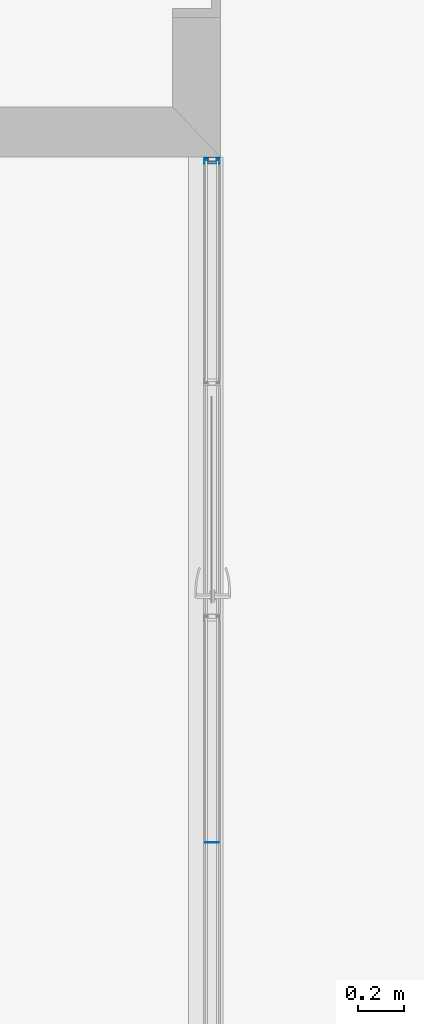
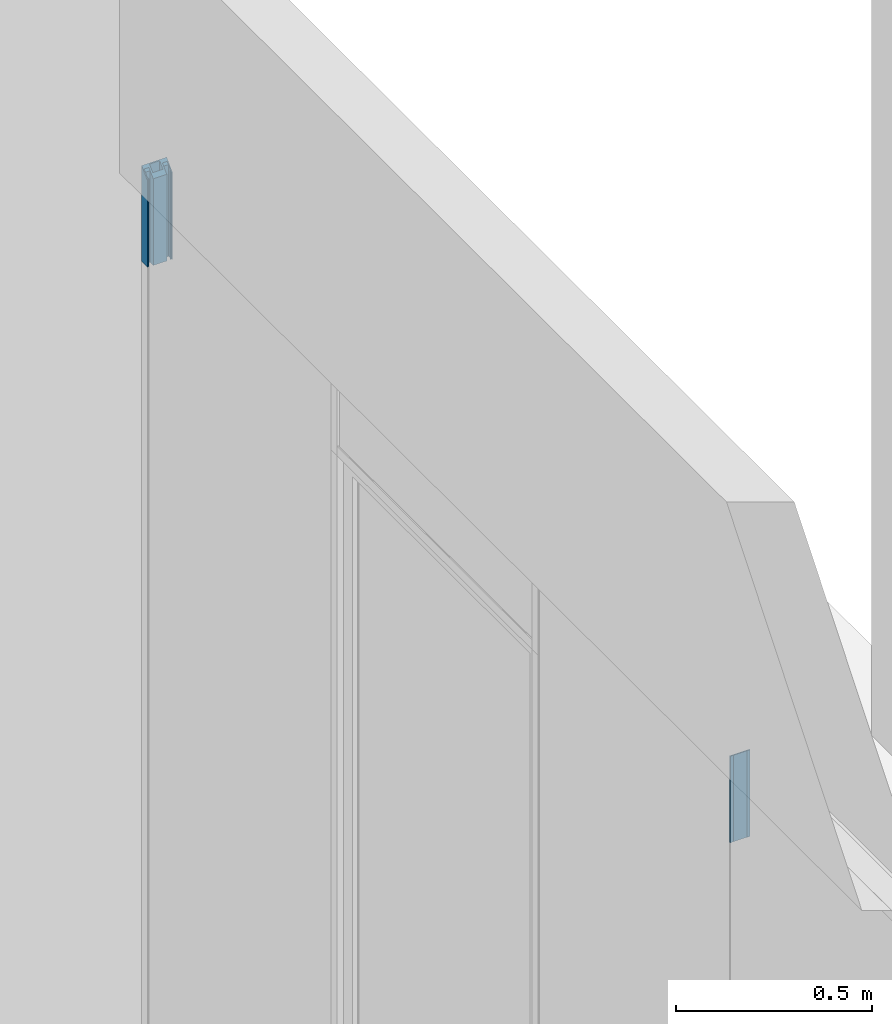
# One storey, part 25 of 65: 4 building element parts, 3 elements without a shape of their own.
"""IFC2X3 building model written with IfcOpenShell, lengths in millimetres."""

from ifc_helpers import new_model, entity, si_unit, converted_unit, derived_unit, money_unit, direction, frame, origin_with_axes, place, context, subcontext, project, spatial, faceted_brep, source, transform, mapped, material, type_object, element, aggregate, save


model = new_model("IFC2X3")

# Units and contexts
model_context = context("Model", 3, precision=0.01, world=origin_with_axes(), true_north=direction((0.0, 1.0)))
body_context = subcontext(model_context, "Body", "Model", "MODEL_VIEW")
ifc_project = project(units=[si_unit("LENGTHUNIT", "METRE", prefix="MILLI"), si_unit("AREAUNIT", "SQUARE_METRE"), si_unit("VOLUMEUNIT", "CUBIC_METRE"), converted_unit("PLANEANGLEUNIT", "DEGREE", entity("IfcPlaneAngleMeasure", 0.0174532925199), si_unit("PLANEANGLEUNIT", "RADIAN"), dimensions=[0, 0, 0, 0, 0, 0, 0]), si_unit("SOLIDANGLEUNIT", "STERADIAN"), money_unit("EUR"), converted_unit("TIMEUNIT", "Year", entity("IfcTimeMeasure", 31556926.0), si_unit("TIMEUNIT", "SECOND"), dimensions=[0, 0, 1, 0, 0, 0, 0]), si_unit("MASSUNIT", "GRAM", prefix="KILO"), si_unit("THERMODYNAMICTEMPERATUREUNIT", "DEGREE_CELSIUS"), si_unit("LUMINOUSINTENSITYUNIT", "LUMEN"), si_unit("ENERGYUNIT", "JOULE", prefix="MEGA"), derived_unit("THERMALCONDUCTANCEUNIT", [(si_unit("POWERUNIT", "WATT"), 1), (si_unit("LENGTHUNIT", "METRE"), -1), (si_unit("THERMODYNAMICTEMPERATUREUNIT", "KELVIN"), -1)]), derived_unit("SPECIFICHEATCAPACITYUNIT", [(si_unit("ENERGYUNIT", "JOULE"), 1), (si_unit("MASSUNIT", "GRAM", prefix="KILO"), -1), (si_unit("THERMODYNAMICTEMPERATUREUNIT", "KELVIN"), -1)]), derived_unit("MASSDENSITYUNIT", [(si_unit("MASSUNIT", "GRAM", prefix="KILO"), 1), (si_unit("VOLUMEUNIT", "CUBIC_METRE"), -1)])], contexts=[model_context])

# Site, building, storey
site_placement = place(None, origin_with_axes())
site = spatial("IfcSite", under=ifc_project, at=site_placement, Name="Puškini 31, Narva", CompositionType="ELEMENT")
building_placement = place(site_placement, origin_with_axes())
building = spatial("IfcBuilding", under=site, at=building_placement, Name="Narva Riigigümnaasium", CompositionType="ELEMENT")
storey_placement = place(building_placement, frame((0.0, 0.0, -1320.0), z_axis=(0.0, 0.0, 1.0), x_axis=(1.0, 0.0, 0.0)))
storey = spatial("IfcBuildingStorey", under=building, at=storey_placement, Name="1.korrus -1.32", CompositionType="ELEMENT", Elevation=-1320.0)

# Curtain wall, members, building element parts
curtain_wall_type = type_object("IfcCurtainWallType", Name="Curtain Wall Type", PredefinedType="NOTDEFINED")
curtain_wall_placement = place(storey_placement, frame((30362.9999948, 171898.750025, 0.0), z_axis=(0.0, 0.0, 1.0), x_axis=(1.0, 0.0, 0.0)))
curtain_wall = element("IfcCurtainWall", 1, at=curtain_wall_placement, inside=storey, type_object=curtain_wall_type, Name="G-SKLF-06")
member_type_1 = type_object("IfcMemberType", Name="Siseklaasfassaad - Raam n2htamatu 3 x 29", PredefinedType="MULLION")
member_1_placement = place(curtain_wall_placement, frame((0.0, 498.75, 2400.0), z_axis=(0.0, 0.0, 1.0), x_axis=(0.0, -1.0, 0.0)))
member_1 = element("IfcMember", 2, at=member_1_placement, type_object=member_type_1, Name="G-SKLF-06-klaasidevaheline tihend", ObjectType="MULLION")
ifc_material_1 = material(Name="Klaas")
shared_shape_1 = source(origin_with_axes(), body_context, "Body", "Brep", [
    faceted_brep([(-1.4999861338, 20.0064497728, 0.0), (1.5000138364, 20.0064497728, 0.0), (1.5000138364, 20.0064497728, 269.999980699), (-1.4999861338, 20.0064497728, 269.999980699), (-1.4999861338, 29.0064496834, 0.0), (1.5000138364, 29.0064496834, 0.0), (1.5000138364, 29.0064496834, 269.999980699), (-1.4999861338, 29.0064496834, 269.999980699)], [[[0, 1, 2, 3]], [[0, 4, 5, 1]], [[1, 5, 6, 2]], [[3, 2, 6, 7]], [[4, 0, 3, 7]], [[5, 4, 7, 6]]]),
    faceted_brep([(-1.4999861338, -19.993550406, 0.0), (-1.4999861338, -28.9935503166, 0.0), (-1.4999861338, -28.9935503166, 269.999980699), (-1.4999861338, -19.993550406, 269.999980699), (1.5000138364, -19.993550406, 0.0), (1.5000138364, -28.9935503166, 0.0), (1.5000138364, -28.9935503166, 269.999980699), (1.5000138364, -19.993550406, 269.999980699)], [[[0, 1, 2, 3]], [[0, 4, 5, 1]], [[1, 5, 6, 2]], [[3, 2, 6, 7]], [[4, 0, 3, 7]], [[5, 4, 7, 6]]]),
])
building_element_part_1_placement = place(member_1_placement, origin_with_axes())
building_element_part_1 = element("IfcBuildingElementPart", 3, at=building_element_part_1_placement, material=ifc_material_1, Name="Klaas", context=body_context, shape_type="MappedRepresentation", body=[
    mapped(shared_shape_1, transform((0.0, 0.0, 0.0))),
])
ifc_material_2 = material(Name="VKR-06_Õhkvahe")
shared_shape_2 = source(origin_with_axes(), body_context, "Body", "Brep", [
    faceted_brep([(-1.4999861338, 20.0064496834, 0.0), (-1.4999861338, -19.9935503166, 0.0), (-1.4999861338, -19.9935503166, 269.999980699), (-1.4999861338, 20.0064496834, 269.999980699), (1.5000138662, 20.0064496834, 0.0), (1.5000138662, -19.9935503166, 0.0), (1.5000138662, -19.9935503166, 269.999980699), (1.5000138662, 20.0064496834, 269.999980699)], [[[0, 1, 2, 3]], [[0, 4, 5, 1]], [[1, 5, 6, 2]], [[3, 2, 6, 7]], [[4, 0, 3, 7]], [[5, 4, 7, 6]]]),
])
building_element_part_2_placement = place(member_1_placement, origin_with_axes())
building_element_part_2 = element("IfcBuildingElementPart", 4, at=building_element_part_2_placement, material=ifc_material_2, Name="VKR-06_Õhkvahe", context=body_context, shape_type="MappedRepresentation", body=[
    mapped(shared_shape_2, transform((0.0, 0.0, 0.0))),
])
aggregate(member_1, [building_element_part_1, building_element_part_2])
member_type_2 = type_object("IfcMemberType", Name="30 x 37", PredefinedType="MULLION")
member_2_placement = place(curtain_wall_placement, frame((0.0, 3491.25008998, 2400.0), z_axis=(0.0, 0.0, 1.0), x_axis=(0.0, -1.0, 0.0)))
member_2 = element("IfcMember", 5, at=member_2_placement, type_object=member_type_2, Name="G-SKLF-06-raam", ObjectType="MULLION")
aggregate(curtain_wall, [member_1, member_2])
ifc_material_3 = material(Name="Klaasvill")
shared_shape_3 = source(origin_with_axes(), body_context, "Body", "Brep", [
    faceted_brep([(7.49999990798, 20.000000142, 0.0), (13.8499999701, 20.000000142, 0.0), (13.8499999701, 20.000000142, 286.15000003), (7.49999990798, 20.000000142, 292.500000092), (7.49999990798, 34.0161444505, 0.0), (13.8499999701, 34.0161444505, 0.0), (13.8499999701, 34.0161444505, 286.15000003), (7.49999990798, 34.0161444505, 292.500000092)], [[[0, 1, 2, 3]], [[0, 4, 5, 1]], [[1, 5, 6, 2]], [[3, 2, 6, 7]], [[4, 0, 3, 7]], [[5, 4, 7, 6]]]),
    faceted_brep([(24.987414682, 34.0161444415, 0.0), (25.004489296, 32.0307503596, 0.0), (25.004489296, 32.0307503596, 274.995510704), (24.987414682, 34.0161444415, 275.012585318), (28.5126239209, 34.0161444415, 0.0), (28.7655837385, 33.0385325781, 0.0), (28.4955493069, 32.0307503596, 0.0), (27.75780152, 31.2930025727, 0.0), (26.7500193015, 31.0229681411, 0.0), (25.742237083, 31.2930025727, 0.0), (25.742237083, 31.2930025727, 274.257762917), (26.7500193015, 31.0229681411, 273.249980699), (27.75780152, 31.2930025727, 272.24219848), (28.4955493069, 32.0307503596, 271.504450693), (28.7655837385, 33.0385325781, 271.234416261), (28.5126239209, 34.0161444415, 271.487376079)], [[[0, 1, 2, 3]], [[0, 4, 5, 6, 7, 8, 9, 1]], [[1, 9, 10, 2]], [[3, 2, 10, 11, 12, 13, 14, 15]], [[4, 0, 3, 15]], [[5, 4, 15, 14]], [[6, 5, 14, 13]], [[7, 6, 13, 12]], [[8, 7, 12, 11]], [[9, 8, 11, 10]]]),
    faceted_brep([(7.49999990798, -19.9999997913, 0.0), (7.49999990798, -34.0161445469, 0.0), (7.49999990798, -34.0161445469, 292.500000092), (7.49999990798, -19.9999997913, 292.500000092), (13.8499999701, -19.9999997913, 0.0), (13.8499999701, -34.0161445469, 0.0), (13.8499999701, -34.0161445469, 286.15000003), (13.8499999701, -19.9999997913, 286.15000003)], [[[0, 1, 2, 3]], [[0, 4, 5, 1]], [[1, 5, 6, 2]], [[3, 2, 6, 7]], [[4, 0, 3, 7]], [[5, 4, 7, 6]]]),
    faceted_brep([(25.004489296, -32.0307503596, 0.0), (24.987414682, -34.0161444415, 0.0), (24.987414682, -34.0161444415, 275.012585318), (25.004489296, -32.0307503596, 274.995510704), (25.742237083, -31.2930025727, 0.0), (26.7500193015, -31.0229681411, 0.0), (27.75780152, -31.2930025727, 0.0), (28.4955493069, -32.0307503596, 0.0), (28.7655837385, -33.0385325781, 0.0), (28.5126239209, -34.0161444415, 0.0), (28.5126239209, -34.0161444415, 271.487376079), (28.7655837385, -33.0385325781, 271.234416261), (28.4955493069, -32.0307503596, 271.504450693), (27.75780152, -31.2930025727, 272.24219848), (26.7500193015, -31.0229681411, 273.249980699), (25.742237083, -31.2930025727, 274.257762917)], [[[0, 1, 2, 3]], [[0, 4, 5, 6, 7, 8, 9, 1]], [[1, 9, 10, 2]], [[3, 2, 10, 11, 12, 13, 14, 15]], [[4, 0, 3, 15]], [[5, 4, 15, 14]], [[6, 5, 14, 13]], [[7, 6, 13, 12]], [[8, 7, 12, 11]], [[9, 8, 11, 10]]]),
])
building_element_part_3_placement = place(member_2_placement, origin_with_axes())
building_element_part_3 = element("IfcBuildingElementPart", 6, at=building_element_part_3_placement, material=ifc_material_3, Name="Klaasvill", context=body_context, shape_type="MappedRepresentation", body=[
    mapped(shared_shape_3, transform((0.0, 0.0, 0.0))),
])
ifc_material_4 = material(Name="Teras RAL7012")
shared_shape_4 = source(origin_with_axes(), body_context, "Body", "Brep", [
    faceted_brep([(0.0, -17.0000000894, 0.0), (29.5999996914, -17.0000000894, 0.0), (29.5999996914, -17.0000000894, 270.400000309), (0.0, -17.0000000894, 300.0), (0.0, 17.0000000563, 0.0), (29.5999996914, 17.0000000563, 0.0), (1.9999999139, 15.0000001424, 0.0), (1.9999999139, -15.0000001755, 0.0), (18.7999996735, -15.0000001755, 0.0), (18.7999996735, 15.0000001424, 0.0), (29.5999996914, 17.0000000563, 270.400000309), (0.0, 17.0000000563, 300.0), (1.9999999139, 15.0000001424, 298.000000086), (18.7999996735, 15.0000001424, 281.200000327), (18.7999996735, -15.0000001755, 281.200000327), (1.9999999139, -15.0000001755, 298.000000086)], [[[0, 1, 2, 3]], [[0, 4, 5, 1], [6, 7, 8, 9]], [[1, 5, 10, 2]], [[3, 2, 10, 11], [12, 13, 14, 15]], [[4, 0, 3, 11]], [[5, 4, 11, 10]], [[7, 6, 12, 15]], [[8, 7, 15, 14]], [[9, 8, 14, 13]], [[6, 9, 13, 12]]]),
    faceted_brep([(0.0, 17.0, 0.0), (29.5999996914, 17.0000000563, 0.0), (29.5999996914, 17.0000000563, 270.400000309), (0.0, 17.0, 300.0), (0.0, 37.0, 0.0), (30.0000193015, 37.0, 0.0), (30.0000193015, 34.0161444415, 0.0), (28.5126239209, 34.0161444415, 0.0), (24.987414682, 34.0161444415, 0.0), (13.8499999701, 34.0161444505, 0.0), (7.49999999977, 34.0161444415, 0.0), (7.49999999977, 20.0, 0.0), (13.8499999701, 20.000000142, 0.0), (30.0000193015, 20.0, 0.0), (30.0000193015, 17.0, 0.0), (30.0000193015, 17.0, 269.999980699), (30.0000193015, 20.0, 269.999980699), (13.8499999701, 20.000000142, 286.15000003), (7.49999999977, 20.0, 292.5), (7.49999999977, 34.0161444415, 292.5), (13.8499999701, 34.0161444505, 286.15000003), (24.987414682, 34.0161444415, 275.012585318), (28.5126239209, 34.0161444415, 271.487376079), (30.0000193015, 34.0161444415, 269.999980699), (30.0000193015, 37.0, 269.999980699), (0.0, 37.0, 300.0)], [[[0, 1, 2, 3]], [[0, 4, 5, 6, 7, 8, 9, 10, 11, 12, 13, 14, 1]], [[1, 14, 15, 2]], [[3, 2, 15, 16, 17, 18, 19, 20, 21, 22, 23, 24, 25]], [[4, 0, 3, 25]], [[5, 4, 25, 24]], [[6, 5, 24, 23]], [[7, 6, 23, 22]], [[8, 7, 22, 21]], [[9, 8, 21, 20]], [[10, 9, 20, 19]], [[11, 10, 19, 18]], [[12, 11, 18, 17]], [[13, 12, 17, 16]], [[14, 13, 16, 15]]]),
    faceted_brep([(0.0, -17.0, 0.0), (0.0, -37.0, 0.0), (0.0, -37.0, 300.0), (0.0, -17.0, 300.0), (29.5999996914, -17.0000000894, 0.0), (30.0000193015, -17.0, 0.0), (30.0000193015, -20.0, 0.0), (13.8499999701, -19.9999997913, 0.0), (7.49999999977, -20.0, 0.0), (7.49999999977, -34.0161444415, 0.0), (13.8499999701, -34.0161445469, 0.0), (24.987414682, -34.0161444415, 0.0), (28.5126239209, -34.0161444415, 0.0), (30.0000193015, -34.0161444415, 0.0), (30.0000193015, -37.0, 0.0), (30.0000193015, -37.0, 269.999980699), (30.0000193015, -34.0161444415, 269.999980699), (28.5126239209, -34.0161444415, 271.487376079), (24.987414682, -34.0161444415, 275.012585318), (13.8499999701, -34.0161445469, 286.15000003), (7.49999999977, -34.0161444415, 292.5), (7.49999999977, -20.0, 292.5), (13.8499999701, -19.9999997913, 286.15000003), (30.0000193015, -20.0, 269.999980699), (30.0000193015, -17.0, 269.999980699), (29.5999996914, -17.0000000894, 270.400000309)], [[[0, 1, 2, 3]], [[0, 4, 5, 6, 7, 8, 9, 10, 11, 12, 13, 14, 1]], [[1, 14, 15, 2]], [[3, 2, 15, 16, 17, 18, 19, 20, 21, 22, 23, 24, 25]], [[4, 0, 3, 25]], [[5, 4, 25, 24]], [[6, 5, 24, 23]], [[7, 6, 23, 22]], [[8, 7, 22, 21]], [[9, 8, 21, 20]], [[10, 9, 20, 19]], [[11, 10, 19, 18]], [[12, 11, 18, 17]], [[13, 12, 17, 16]], [[14, 13, 16, 15]]]),
])
building_element_part_4_placement = place(member_2_placement, origin_with_axes())
building_element_part_4 = element("IfcBuildingElementPart", 7, at=building_element_part_4_placement, material=ifc_material_4, Name="Teras RAL7012", context=body_context, shape_type="MappedRepresentation", body=[
    mapped(shared_shape_4, transform((0.0, 0.0, 0.0))),
])
aggregate(member_2, [building_element_part_3, building_element_part_4])

save(model, "model.ifc")
